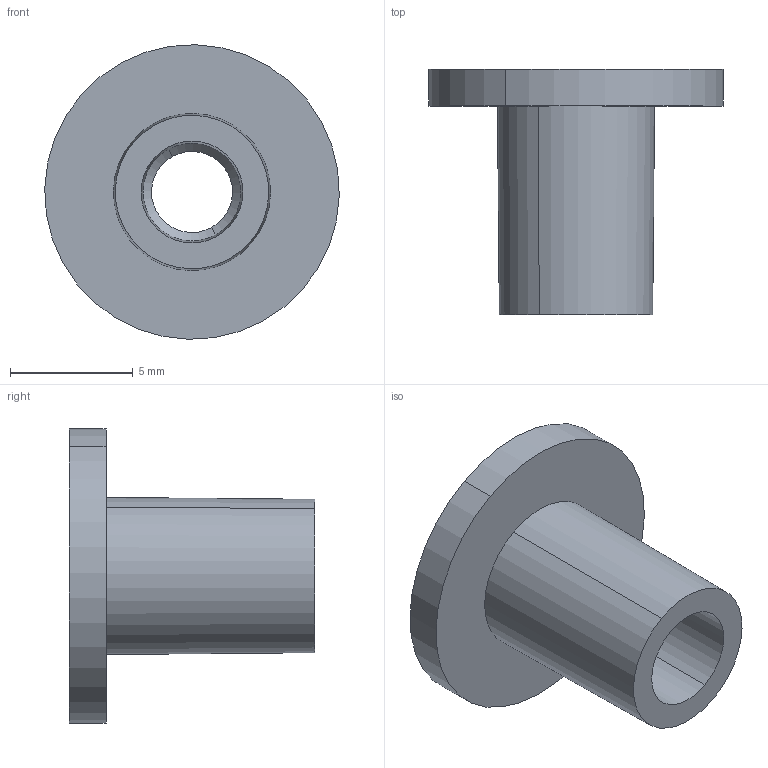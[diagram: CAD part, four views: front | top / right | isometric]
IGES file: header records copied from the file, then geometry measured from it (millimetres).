
Start section: START RECORD GO HERE.
Global section: file name: REA F1 Racing - Axle Grommet.igs; native system: IBM CATIA IGES - CATIA Version 5 Release 19 ; preprocessor: CATIA Version 5 Release 19 ; author: Dan; organization: Sol; date: 20110822.171802; units: millimetre
Bounding box: 12 x 10 x 12 mm (x, y, z)
Surface area: 554.2 mm2 (no closed solid volume)
Topology: 0 solids, 0 shells, 15 faces, 60 edges, 60 vertices
Faces by surface type: revolution 12, plane 3
